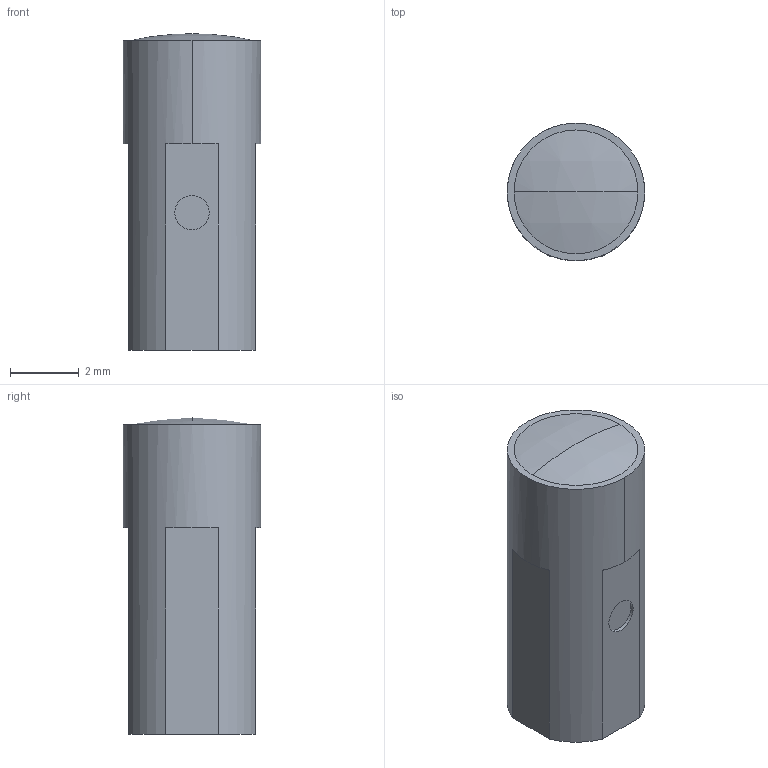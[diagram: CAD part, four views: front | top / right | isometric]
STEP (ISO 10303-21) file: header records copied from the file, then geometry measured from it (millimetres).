
FILE_DESCRIPTION (( 'STEP AP203' ), '1' );
FILE_NAME ('FV-LE1.STEP', '2005-09-08T02:44:30', ( '' ), ( '' ), 'SwSTEP 2.0', 'SolidWorks 2004073', '' );
FILE_SCHEMA (( 'CONFIG_CONTROL_DESIGN' ));
Length unit declared in the file: millimetre
Products named in the file (1): FV-LE1
Bounding box: 4 x 4 x 9.2 mm (x, y, z)
Volume: 94.4 mm3; surface area: 162.2 mm2
Topology: 1 solids, 1 shells, 20 faces, 46 edges, 31 vertices
Faces by surface type: plane 12, cylinder 6, sphere 2
Entity records: 659 total; most frequent: DIRECTION 112, CARTESIAN_POINT 98, ORIENTED_EDGE 92, EDGE_CURVE 46, AXIS2_PLACEMENT_3D 45, VERTEX_POINT 31, CIRCLE 24, EDGE_LOOP 23
